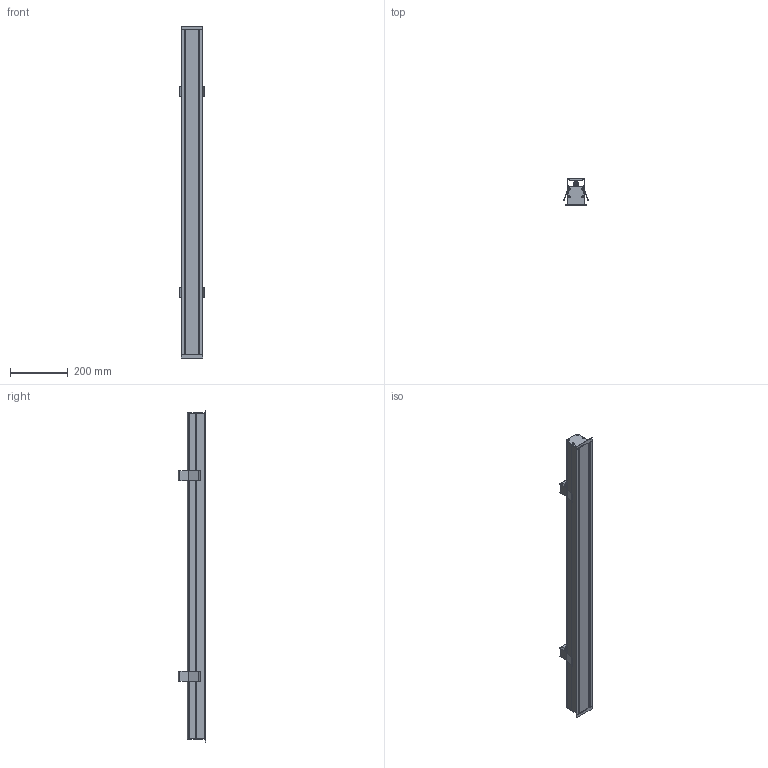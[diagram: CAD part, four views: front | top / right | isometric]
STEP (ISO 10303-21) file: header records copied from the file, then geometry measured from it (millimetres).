
FILE_DESCRIPTION (( 'STEP AP214' ), '1' );
FILE_NAME ('mLight KleoX58 Recessed LED_1148mm_Direct.STEP', '2020-08-06T00:09:45', ( '' ), ( '' ), 'SwSTEP 2.0', 'SolidWorks 2017', '' );
FILE_SCHEMA (( 'AUTOMOTIVE_DESIGN' ));
Length unit declared in the file: millimetre
Products named in the file (6): X58 - Recess Bracket; mLight KleoX58 Recessed LED_1148mm_Direct; Body; RF0013 - Spring Conical2; cross countersunk head screw_as_AS-NZS 1023 CC- M4 x 10-N; Kleo X58 End Cap - REC
Assembly tree (15 placements, depth 2):
  mLight KleoX58 Recessed LED_1148mm_Direct
    Body
    Kleo X58 End Cap - REC  x2
    cross countersunk head screw_as_AS-NZS 1023 CC- M4 x 10-N  x8
    X58 - Recess Bracket  x2
    RF0013 - Spring Conical2  x2
Bounding box: 84.96 x 93.85 x 1148 mm (x, y, z)
Volume: 4011904.8 mm3; surface area: 394704.6 mm2
Topology: 15 solids, 15 shells, 670 faces, 1592 edges, 944 vertices
Faces by surface type: plane 379, cylinder 151, cone 120, torus 16, bspline 4
Entity records: 11660 total; most frequent: CARTESIAN_POINT 5472, DIRECTION 1301, ORIENTED_EDGE 1204, EDGE_CURVE 602, AXIS2_PLACEMENT_3D 455, VECTOR 391, LINE 391, VERTEX_POINT 370
